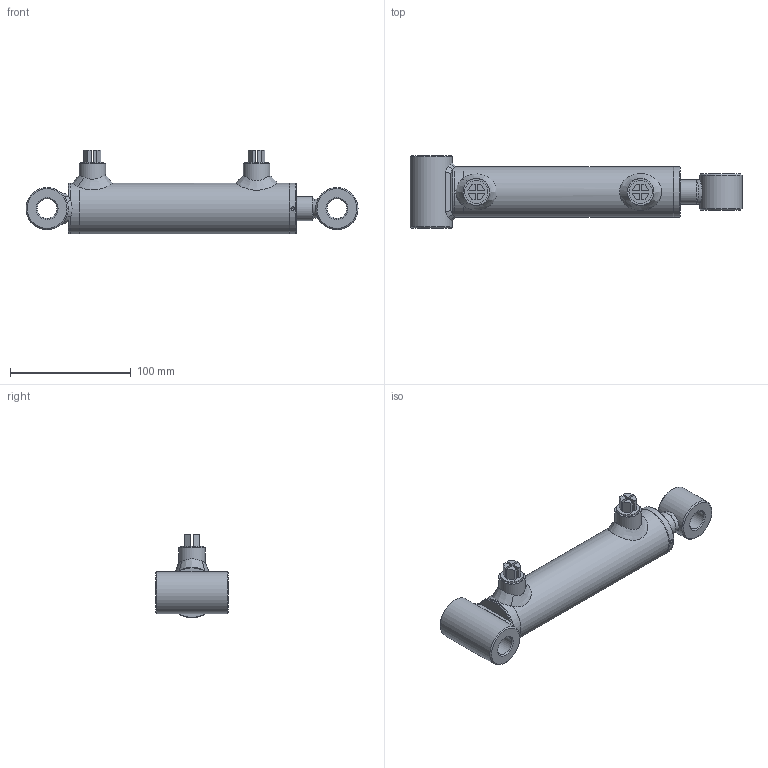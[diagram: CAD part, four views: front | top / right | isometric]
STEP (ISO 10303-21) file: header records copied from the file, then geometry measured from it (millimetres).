
FILE_DESCRIPTION( ( 'Unknown' ), '1' );
FILE_NAME( 'E:/LIBRERIA_3d/CILINDRI/HM2/HM2032200100.stp', 'Unknown', ( 'Unknown' ), ( 'Unknown' ), 'PSStep 17.0.49', 'Unknown', ' ' );
FILE_SCHEMA( ( 'AUTOMOTIVE_DESIGN { 1 0 10303 214 1 1 1 1 }' ) );
Length unit declared in the file: millimetre
Products named in the file (25): CT00032015; STFR032050100-oa6; Saldatura d'angolo 1-oa4; MAT_PRIMA_TUBO_FT04203200-oa5; CBSC220400; CG04203220; HM0032200100; Saldatura con preparazione 1-oa2; Saldatura d'angolo 1-oa3; CF00032042; CDA0001415; SBL0200320100; APSEP43519; Assem1; CB16035030; Saldatura d'angolo 2-oa0; Saldatura d'angolo 3-oa1; CB16035060
Assembly tree (18 placements, depth 4):
  Saldatura d'angolo 1-oa4
  Saldatura d'angolo 1-oa4
  Saldatura d'angolo 1-oa3
  Saldatura d'angolo 1-oa3
  Assem1
    CB16035030
    CB16035060
    HM0032200100
      Saldatura con preparazione 1-oa2
      Saldatura con preparazione 1-oa2
      CF00032042
      CDA0001415
      SBL0200320100
      CBSC220400
      APSEP43519  x2
      CG04203220
        CG04203220
      CT00032015
        CT00032015
      STFR032050100-oa6
        MAT_PRIMA_TUBO_FT04203200-oa5
        CBSC220400
Bounding box: 275 x 60 x 69.5 mm (x, y, z)
Volume: 286710.9 mm3; surface area: 116152 mm2
Topology: 22 solids, 22 shells, 330 faces, 681 edges, 408 vertices
Faces by surface type: plane 112, bspline 80, cylinder 60, cone 46, torus 32
Full cylindrical faces by diameter (mm): 3 x2, 4 x2, 4.25 x1, 5 x2, 7.5 x2, 11.445 x2, 13.157 x2, 14 x2, 15 x3, 16.2 x2, 19.2 x2, 19.5 x1, 20 x4, 22 x4, 23 x1, 24 x1, 28 x3, 28.3 x1, 28.6 x1, 31.4 x2, 31.9 x1, 32 x1, 32.3 x1, 32.5 x1, 32.6 x1, 33 x1, 34 x3, 34.376 x1, 35 x2, 36 x1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
Entity records: 16094 total; most frequent: CARTESIAN_POINT 8517, DIRECTION 910, ORIENTED_EDGE 854, EDGE_LOOP 476, EDGE_CURVE 427, AXIS2_PLACEMENT_3D 413, FACE_OUTER_BOUND 389, VERTEX_POINT 318
